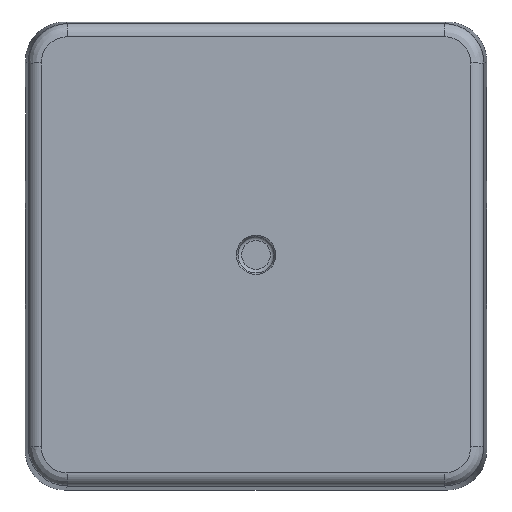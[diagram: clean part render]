
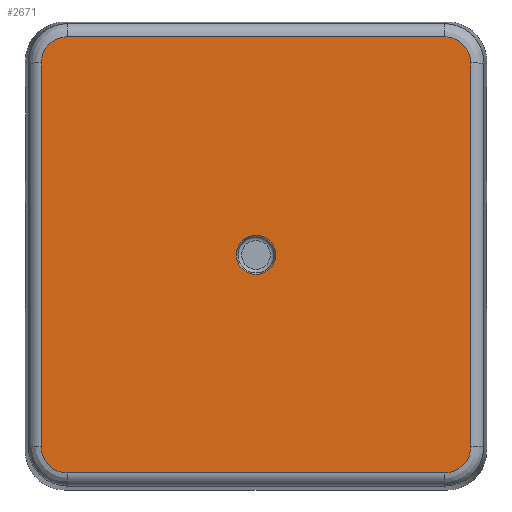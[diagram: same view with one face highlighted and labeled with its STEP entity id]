
A CAD part, top view. The second image highlights one B-rep face of the part: STEP entity #2671.
In plain terms, the highlighted planar face has unit normal (0, 0, 1).
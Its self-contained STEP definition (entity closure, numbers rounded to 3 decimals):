
#1154=ELLIPSE('',#27458,2.,2.);
#1155=ELLIPSE('',#27459,2.,2.);
#1156=ELLIPSE('',#27460,2.,2.);
#1157=ELLIPSE('',#27461,2.,2.);
#1372=FACE_BOUND('',#6370,.T.);
#1373=FACE_BOUND('',#6371,.T.);
#2671=ADVANCED_FACE('',(#1372,#1373),#3878,.T.);
#3878=PLANE('',#27463);
#6370=EDGE_LOOP('',(#14769,#14770,#14771,#14772,#14773,#14774,#14775,#14776));
#6371=EDGE_LOOP('',(#14777));
#8285=LINE('',#40137,#10551);
#8423=LINE('',#40597,#10689);
#8424=LINE('',#40603,#10690);
#8425=LINE('',#40607,#10691);
#10551=VECTOR('',#32003,1.);
#10689=VECTOR('',#32223,1.);
#10690=VECTOR('',#32228,1.);
#10691=VECTOR('',#32231,1.);
#14769=ORIENTED_EDGE('',*,*,#23231,.T.);
#14770=ORIENTED_EDGE('',*,*,#23232,.T.);
#14771=ORIENTED_EDGE('',*,*,#23058,.T.);
#14772=ORIENTED_EDGE('',*,*,#23233,.T.);
#14773=ORIENTED_EDGE('',*,*,#23234,.T.);
#14774=ORIENTED_EDGE('',*,*,#23235,.T.);
#14775=ORIENTED_EDGE('',*,*,#23236,.T.);
#14776=ORIENTED_EDGE('',*,*,#23237,.T.);
#14777=ORIENTED_EDGE('',*,*,#23238,.T.);
#20350=VERTEX_POINT('',#40138);
#20351=VERTEX_POINT('',#40139);
#20464=VERTEX_POINT('',#40598);
#20465=VERTEX_POINT('',#40599);
#20466=VERTEX_POINT('',#40602);
#20467=VERTEX_POINT('',#40604);
#20468=VERTEX_POINT('',#40606);
#20469=VERTEX_POINT('',#40608);
#20470=VERTEX_POINT('',#40611);
#23058=EDGE_CURVE('',#20350,#20351,#8285,.T.);
#23231=EDGE_CURVE('',#20464,#20465,#8423,.T.);
#23232=EDGE_CURVE('',#20465,#20350,#1154,.T.);
#23233=EDGE_CURVE('',#20351,#20466,#1155,.T.);
#23234=EDGE_CURVE('',#20466,#20467,#8424,.T.);
#23235=EDGE_CURVE('',#20467,#20468,#1156,.T.);
#23236=EDGE_CURVE('',#20468,#20469,#8425,.T.);
#23237=EDGE_CURVE('',#20469,#20464,#1157,.T.);
#23238=EDGE_CURVE('',#20470,#20470,#25779,.T.);
#25779=CIRCLE('',#27462,1.5);
#27458=AXIS2_PLACEMENT_3D('',#40600,#32224,#32225);
#27459=AXIS2_PLACEMENT_3D('',#40601,#32226,#32227);
#27460=AXIS2_PLACEMENT_3D('',#40605,#32229,#32230);
#27461=AXIS2_PLACEMENT_3D('',#40609,#32232,#32233);
#27462=AXIS2_PLACEMENT_3D('',#40610,#32234,#32235);
#27463=AXIS2_PLACEMENT_3D('',#40612,#32236,#32237);
#32003=DIRECTION('',(0.,-1.,0.));
#32223=DIRECTION('',(-1.,0.,0.));
#32224=DIRECTION('',(0.,0.,1.));
#32225=DIRECTION('',(-0.707,0.707,0.));
#32226=DIRECTION('',(0.,0.,1.));
#32227=DIRECTION('',(-0.707,-0.707,0.));
#32228=DIRECTION('',(1.,0.,0.));
#32229=DIRECTION('',(0.,0.,1.));
#32230=DIRECTION('',(-0.707,0.707,0.));
#32231=DIRECTION('',(0.,1.,0.));
#32232=DIRECTION('',(0.,0.,1.));
#32233=DIRECTION('',(-0.707,-0.707,0.));
#32234=DIRECTION('',(0.,0.,-1.));
#32235=DIRECTION('',(1.,0.,0.));
#32236=DIRECTION('',(0.,0.,1.));
#32237=DIRECTION('',(-1.,0.,0.));
#40137=CARTESIAN_POINT('',(-16.435,-17.66,67.733));
#40138=CARTESIAN_POINT('',(-16.435,14.825,67.733));
#40139=CARTESIAN_POINT('',(-16.435,-14.445,67.733));
#40597=CARTESIAN_POINT('',(17.8,16.825,67.733));
#40598=CARTESIAN_POINT('',(14.335,16.825,67.733));
#40599=CARTESIAN_POINT('',(-14.435,16.825,67.733));
#40600=CARTESIAN_POINT('',(-14.435,14.825,67.733));
#40601=CARTESIAN_POINT('',(-14.435,-14.445,67.733));
#40602=CARTESIAN_POINT('',(-14.435,-16.445,67.733));
#40603=CARTESIAN_POINT('',(17.8,-16.445,67.733));
#40604=CARTESIAN_POINT('',(14.335,-16.445,67.733));
#40605=CARTESIAN_POINT('',(14.335,-14.445,67.733));
#40606=CARTESIAN_POINT('',(16.335,-14.445,67.733));
#40607=CARTESIAN_POINT('',(16.335,-17.66,67.733));
#40608=CARTESIAN_POINT('',(16.335,14.825,67.733));
#40609=CARTESIAN_POINT('',(14.335,14.825,67.733));
#40610=CARTESIAN_POINT('',(-0.05,0.19,67.733));
#40611=CARTESIAN_POINT('',(1.45,0.19,67.733));
#40612=CARTESIAN_POINT('',(17.8,-17.66,67.733));
